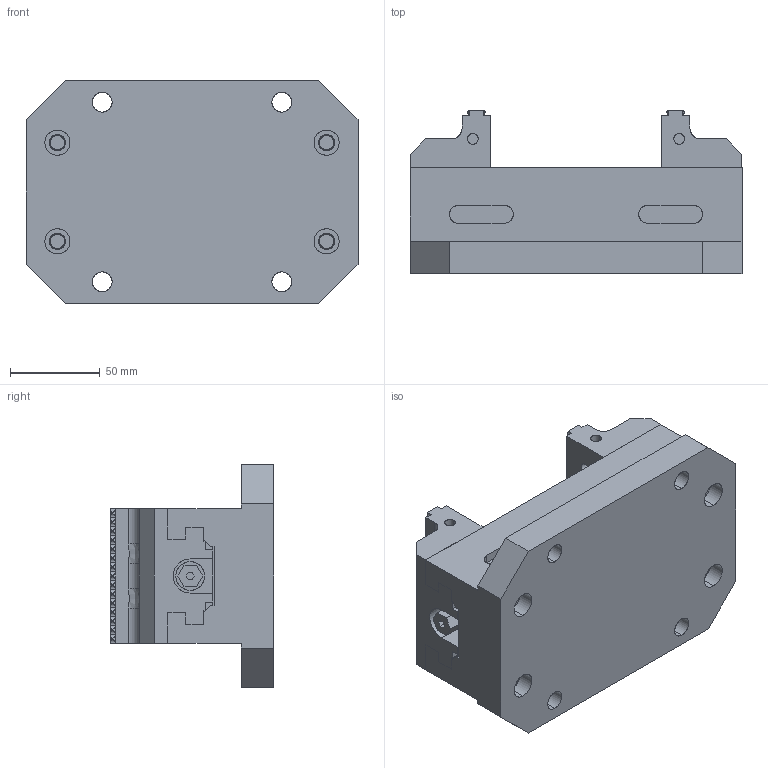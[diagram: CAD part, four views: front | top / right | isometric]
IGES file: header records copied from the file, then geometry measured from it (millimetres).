
Start section: SolidWorks IGES file using analytic representation for surfaces
Global section: file name: C:\Users\Özkayalý\Desktop\2020 ARÞÝV RESÝM\KATALOG\URT 06-BEÞ EKSEN MENGENELER\BEÞ EKSEN MENGENE MONTAJ DATALARI\CNX75100\CNX75100 BEÞ EKSEN MENGENE.IGS; native system: SolidWorks 2021; preprocessor: SolidWorks 2021; author: Özkayalý; date: 210908.105310; units: millimetre
Bounding box: 185 x 91 x 124 mm (x, y, z)
Surface area: 158421.9 mm2 (no closed solid volume)
Topology: 0 solids, 0 shells, 666 faces, 9534 edges, 9534 vertices
Faces by surface type: bspline 385, revolution 281
